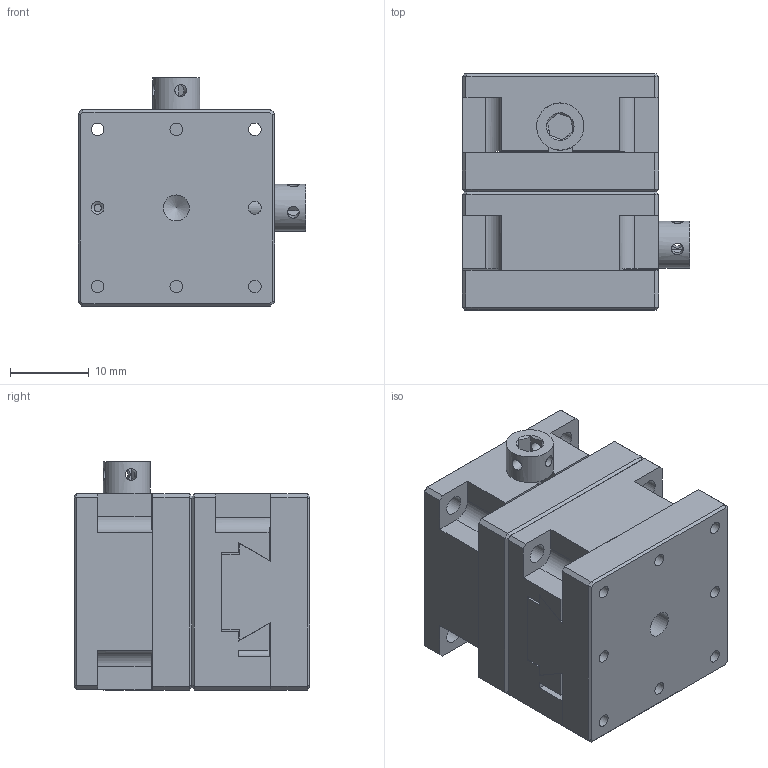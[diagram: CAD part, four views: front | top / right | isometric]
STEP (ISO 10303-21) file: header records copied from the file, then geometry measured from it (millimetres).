
FILE_DESCRIPTION (( 'STEP AP203' ), '1' );
FILE_NAME ('BKB25.STEP', '2024-07-31T07:31:54', ( 'Windows User' ), ( 'P R C' ), 'SwSTEP 2.0', 'SolidWorks 2024', '' );
FILE_SCHEMA (( 'CONFIG_CONTROL_DESIGN' ));
Length unit declared in the file: millimetre
Products named in the file (1): BKB25
Bounding box: 29 x 30 x 29.04 mm (x, y, z)
Volume: 15855.9 mm3; surface area: 11507.1 mm2
Topology: 6 solids, 6 shells, 292 faces, 772 edges, 498 vertices
Faces by surface type: plane 198, cylinder 78, cone 16
Full cylindrical faces by diameter (mm): 1.5 x8, 1.6 x16, 2.05 x6, 2.5 x6, 3 x4, 3.3 x2, 3.5 x2, 4 x2, 4.5 x2, 6 x2
Entity records: 9043 total; most frequent: CARTESIAN_POINT 1991, DIRECTION 1384, ORIENTED_EDGE 1356, EDGE_CURVE 678, VECTOR 486, LINE 486, VERTEX_POINT 472, AXIS2_PLACEMENT_3D 449
